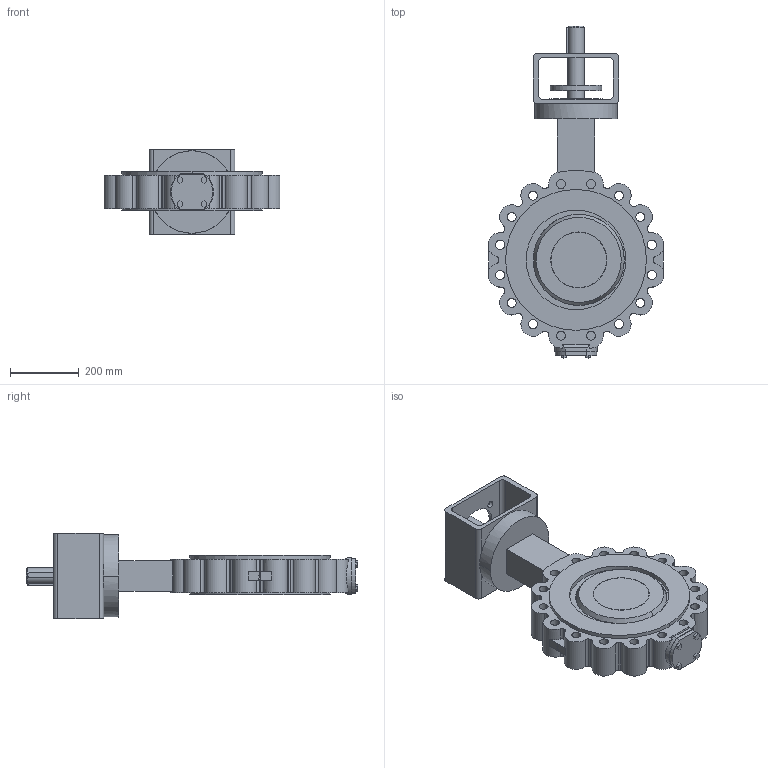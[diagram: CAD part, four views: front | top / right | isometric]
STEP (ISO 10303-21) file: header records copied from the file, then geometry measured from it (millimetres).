
FILE_DESCRIPTION( ( '' ), '1' );
FILE_NAME( 'F:/DE-SHS/TB/OR/04-Sonstiges/daten/files_3d/018_ZETRIX-PN10_freiesWellende/c000006384.stp', '2016-09-01T11:05:57', ( '' ), ( '' ), ' ', ' ', ' ' );
FILE_SCHEMA( ( 'CONFIG_CONTROL_DESIGN' ) );
Length unit declared in the file: millimetre
Products named in the file (1): 1
Bounding box: 512.21 x 966.4 x 248 mm (x, y, z)
Volume: 23113745.2 mm3; surface area: 1394915.8 mm2
Topology: 1 solids, 1 shells, 311 faces, 838 edges, 558 vertices
Faces by surface type: cylinder 190, plane 113, sphere 4, cone 4
Entity records: 10938 total; most frequent: CARTESIAN_POINT 2636, DIRECTION 1840, ORIENTED_EDGE 1676, EDGE_CURVE 838, AXIS2_PLACEMENT_3D 722, VERTEX_POINT 558, CIRCLE 406, LINE 396
